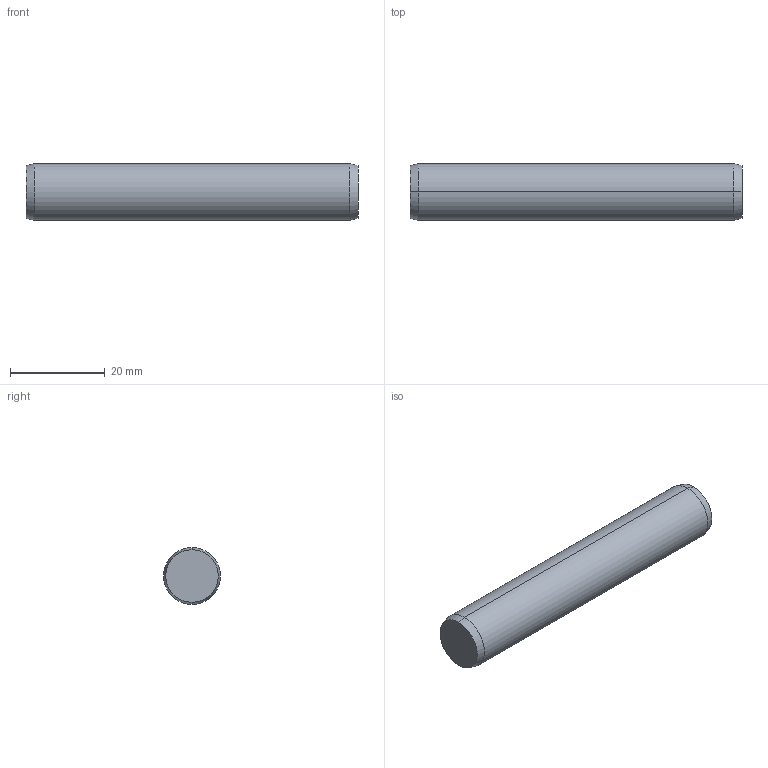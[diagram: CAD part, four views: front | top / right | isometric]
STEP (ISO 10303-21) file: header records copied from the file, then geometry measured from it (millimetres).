
FILE_DESCRIPTION (( 'STEP AP203' ), '1' );
FILE_NAME ('P1206.120-070.step', '2017-06-14T08:40:08', ( 'User' ), ( '' ), 'SwSTEP 2.0', 'SolidWorks 2009', '' );
FILE_SCHEMA (( 'CONFIG_CONTROL_DESIGN' ));
Length unit declared in the file: millimetre
Products named in the file (1): P1206.120-070
Bounding box: 70 x 12 x 12 mm (x, y, z)
Volume: 7888.4 mm3; surface area: 2831.6 mm2
Topology: 1 solids, 1 shells, 8 faces, 14 edges, 8 vertices
Faces by surface type: cone 4, cylinder 2, plane 2
Entity records: 271 total; most frequent: DIRECTION 40, CARTESIAN_POINT 31, ORIENTED_EDGE 28, AXIS2_PLACEMENT_3D 17, EDGE_CURVE 14, ADVANCED_FACE 8, EDGE_LOOP 8, VERTEX_POINT 8
